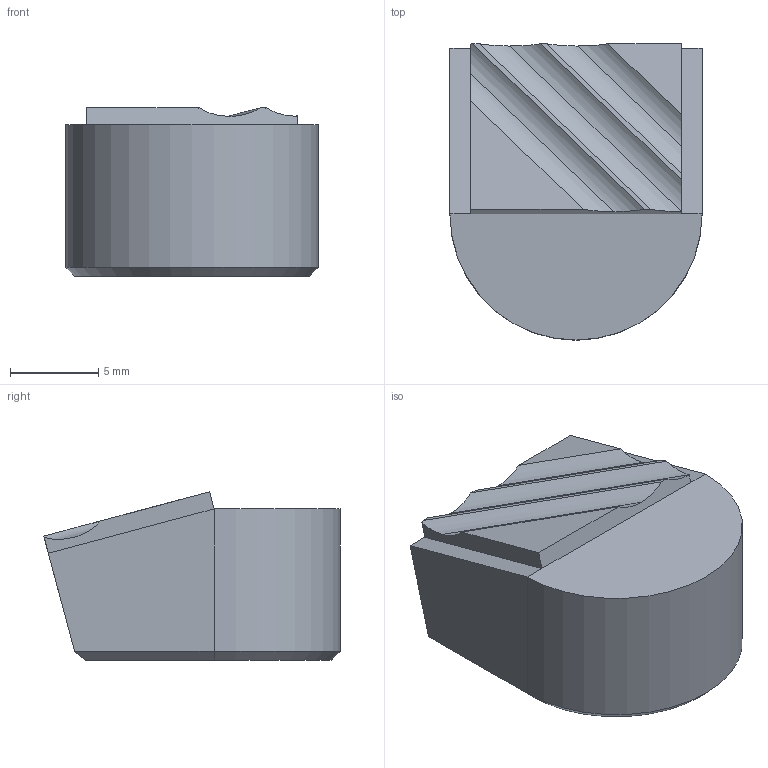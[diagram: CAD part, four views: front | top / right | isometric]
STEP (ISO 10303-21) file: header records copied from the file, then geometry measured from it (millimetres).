
FILE_DESCRIPTION((''),'2;1');
FILE_NAME('3535w004.stp','2001-03-30T14:26:51',(''),(''),'AutoCAD STEP 2000i','AutoCAD 2000i',', , ');
FILE_SCHEMA(('CONFIG_CONTROL_DESIGN'));
Length unit declared in the file: millimetre
Products named in the file (2): 3535C-MDTA; 3535C-MDT
Assembly tree (1 placements, depth 2):
  3535C-MDTA
    3535C-MDT
Bounding box: 14.28 x 16.77 x 9.53 mm (x, y, z)
Volume: 1536.6 mm3; surface area: 953.3 mm2
Topology: 1 solids, 1 shells, 29 faces, 72 edges, 44 vertices
Faces by surface type: plane 17, cylinder 9, cone 3
Entity records: 949 total; most frequent: DIRECTION 152, CARTESIAN_POINT 145, ORIENTED_EDGE 140, EDGE_CURVE 70, AXIS2_PLACEMENT_3D 51, VECTOR 50, LINE 50, VERTEX_POINT 44
